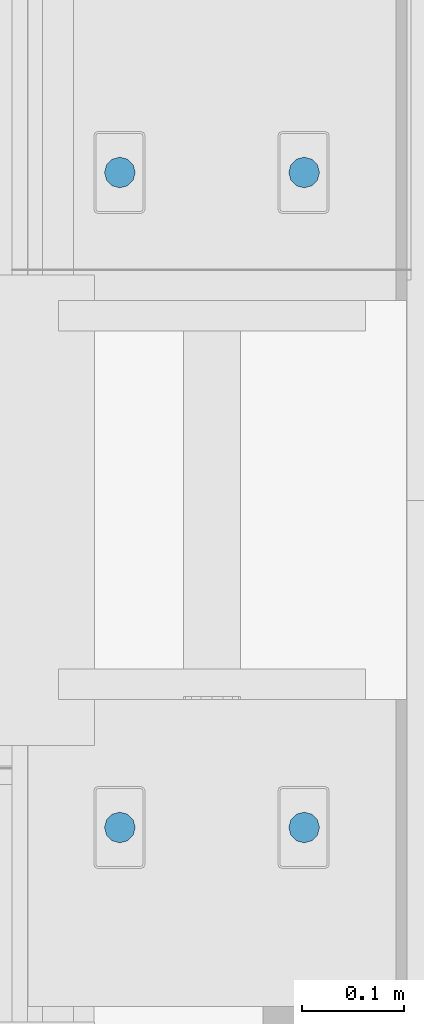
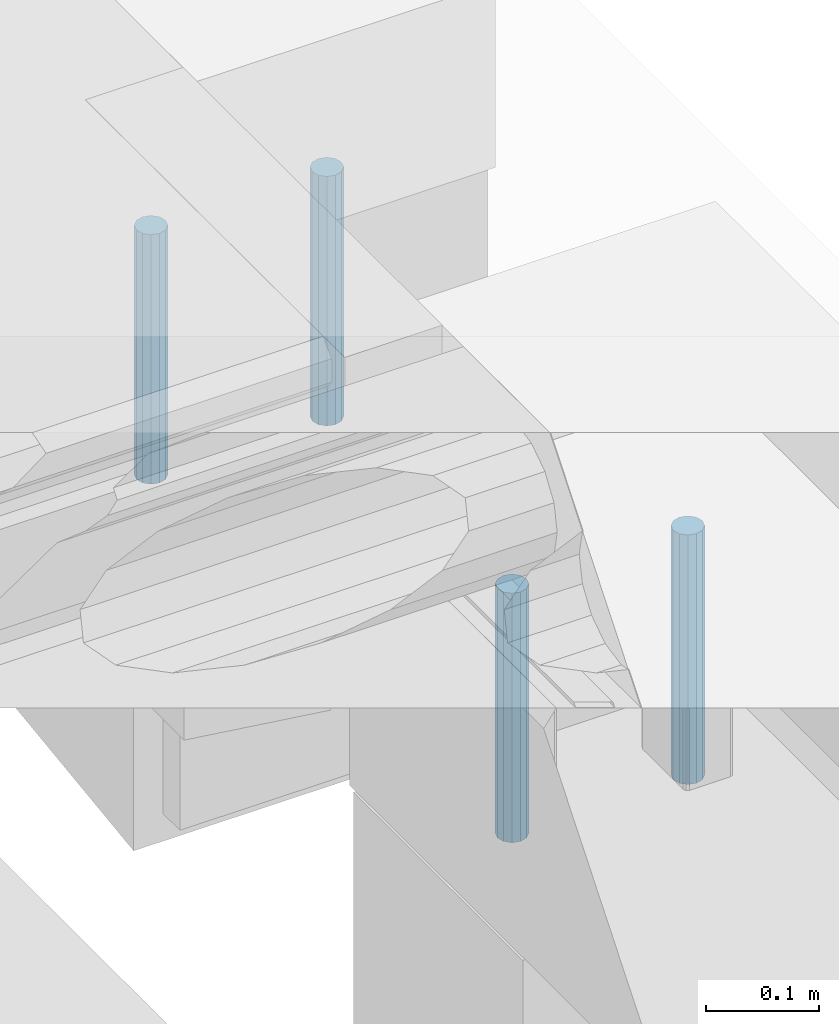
# One storey, part 193 of 230: 4 beams.
"""IFC4X3_ADD2 building model written with IfcOpenShell, lengths in millimetres."""

from ifc_helpers import new_model, si_unit, direction, origin_with_axes, place, context, subcontext, project, spatial, polygons, element, save


model = new_model("IFC4X3_ADD2")

# Units and contexts
model_context = context("Model", 3, precision=1e-05, world=origin_with_axes(), true_north=direction((0.0, 1.0)))
body_context = subcontext(model_context, "Body", "Model", "MODEL_VIEW")
ifc_project = project(units=[si_unit("LENGTHUNIT", "METRE", prefix="MILLI"), si_unit("AREAUNIT", "SQUARE_METRE"), si_unit("VOLUMEUNIT", "CUBIC_METRE"), si_unit("PLANEANGLEUNIT", "RADIAN"), si_unit("TIMEUNIT", "SECOND"), si_unit("MASSUNIT", "GRAM")], contexts=[model_context])

# Site, building, storey
site_placement = place(None, origin_with_axes())
site = spatial("IfcSite", under=ifc_project, at=site_placement, Name="Site", CompositionType="ELEMENT")
building_placement = place(site_placement, origin_with_axes())
building = spatial("IfcBuilding", under=site, at=building_placement, Name="IFC Building Story")
storey_placement = place(building_placement, origin_with_axes())
storey = spatial("IfcBuildingStorey", under=building, at=storey_placement, Name="ETAGE 00 (0)", Elevation=0.0)

# Beams
beam_1_placement = place(storey_placement, origin_with_axes())
element("IfcBeam", 1, at=beam_1_placement, inside=storey, Name="SD11", ObjectType="D30", context=body_context, shape_type="Tessellation", body=[
    polygons([(48206.1886362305, 5120.000610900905, 3960.0), (48206.1886362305, 5120.000610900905, 3690.0), (48208.19825517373, 5112.500610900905, 3690.0), (48208.19825517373, 5112.500610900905, 3960.0), (48213.6886362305, 5107.010229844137, 3690.0), (48213.6886362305, 5107.010229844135, 3960.0), (48221.18863623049, 5105.0006109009, 3690.0), (48221.18863623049, 5105.0006109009, 3960.0), (48228.68863623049, 5107.010229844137, 3690.0), (48228.68863623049, 5107.010229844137, 3960.0), (48234.17901728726, 5112.500610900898, 3690.0), (48234.17901728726, 5112.500610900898, 3960.0), (48236.1886362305, 5120.000610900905, 3690.0), (48236.1886362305, 5120.000610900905, 3960.0), (48234.17901728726, 5127.500610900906, 3690.0), (48234.17901728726, 5127.500610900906, 3960.0), (48228.68863623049, 5132.990991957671, 3690.0), (48228.68863623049, 5132.990991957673, 3960.0), (48221.18863623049, 5135.000610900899, 3690.0), (48221.18863623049, 5135.000610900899, 3960.0), (48213.6886362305, 5132.990991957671, 3690.0), (48213.6886362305, 5132.990991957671, 3960.0), (48208.19825517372, 5127.500610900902, 3690.0), (48208.19825517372, 5127.500610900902, 3960.0)], [[[1, 2, 3, 4]], [[4, 3, 5, 6]], [[6, 5, 7, 8]], [[8, 7, 9, 10]], [[10, 9, 11, 12]], [[12, 11, 13, 14]], [[14, 13, 15, 16]], [[16, 15, 17, 18]], [[18, 17, 19, 20]], [[20, 19, 21, 22]], [[22, 21, 23, 24]], [[24, 23, 2, 1]], [[4, 6, 8]], [[4, 8, 10]], [[4, 10, 12]], [[4, 12, 14]], [[4, 14, 16]], [[4, 16, 18]], [[4, 18, 20]], [[4, 20, 22]], [[4, 22, 24]], [[4, 24, 1]], [[2, 23, 21]], [[2, 21, 19]], [[2, 19, 17]], [[2, 17, 15]], [[2, 15, 13]], [[2, 13, 11]], [[2, 11, 9]], [[2, 9, 7]], [[2, 7, 5]], [[2, 5, 3]]]),
])
beam_2_placement = place(storey_placement, origin_with_axes())
element("IfcBeam", 2, at=beam_2_placement, inside=storey, Name="SD11", ObjectType="D30", context=body_context, shape_type="Tessellation", body=[
    polygons([(48386.1886362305, 5120.000610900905, 3960.0), (48386.1886362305, 5120.000610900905, 3690.0), (48388.19825517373, 5112.500610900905, 3690.0), (48388.19825517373, 5112.500610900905, 3960.0), (48393.6886362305, 5107.010229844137, 3690.0), (48393.6886362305, 5107.010229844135, 3960.0), (48401.18863623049, 5105.0006109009, 3690.0), (48401.18863623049, 5105.0006109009, 3960.0), (48408.68863623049, 5107.010229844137, 3690.0), (48408.68863623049, 5107.010229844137, 3960.0), (48414.17901728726, 5112.500610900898, 3690.0), (48414.17901728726, 5112.500610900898, 3960.0), (48416.1886362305, 5120.000610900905, 3690.0), (48416.1886362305, 5120.000610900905, 3960.0), (48414.17901728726, 5127.500610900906, 3690.0), (48414.17901728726, 5127.500610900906, 3960.0), (48408.68863623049, 5132.990991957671, 3690.0), (48408.68863623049, 5132.990991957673, 3960.0), (48401.18863623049, 5135.000610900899, 3690.0), (48401.18863623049, 5135.000610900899, 3960.0), (48393.6886362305, 5132.990991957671, 3690.0), (48393.6886362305, 5132.990991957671, 3960.0), (48388.19825517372, 5127.500610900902, 3690.0), (48388.19825517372, 5127.500610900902, 3960.0)], [[[1, 2, 3, 4]], [[4, 3, 5, 6]], [[6, 5, 7, 8]], [[8, 7, 9, 10]], [[10, 9, 11, 12]], [[12, 11, 13, 14]], [[14, 13, 15, 16]], [[16, 15, 17, 18]], [[18, 17, 19, 20]], [[20, 19, 21, 22]], [[22, 21, 23, 24]], [[24, 23, 2, 1]], [[4, 6, 8]], [[4, 8, 10]], [[4, 10, 12]], [[4, 12, 14]], [[4, 14, 16]], [[4, 16, 18]], [[4, 18, 20]], [[4, 20, 22]], [[4, 22, 24]], [[4, 24, 1]], [[2, 23, 21]], [[2, 21, 19]], [[2, 19, 17]], [[2, 17, 15]], [[2, 15, 13]], [[2, 13, 11]], [[2, 11, 9]], [[2, 9, 7]], [[2, 7, 5]], [[2, 5, 3]]]),
])
beam_3_placement = place(storey_placement, origin_with_axes())
element("IfcBeam", 3, at=beam_3_placement, inside=storey, Name="SD11", ObjectType="D30", context=body_context, shape_type="Tessellation", body=[
    polygons([(48386.1886362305, 4480.000610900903, 3960.0), (48386.1886362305, 4480.000610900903, 3690.0), (48388.19825517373, 4472.500610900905, 3690.0), (48388.19825517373, 4472.500610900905, 3960.0), (48393.6886362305, 4467.010229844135, 3690.0), (48393.6886362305, 4467.010229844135, 3960.0), (48401.18863623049, 4465.0006109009, 3690.0), (48401.18863623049, 4465.0006109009, 3960.0), (48408.68863623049, 4467.010229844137, 3690.0), (48408.68863623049, 4467.010229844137, 3960.0), (48414.17901728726, 4472.500610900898, 3690.0), (48414.17901728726, 4472.500610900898, 3960.0), (48416.1886362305, 4480.000610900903, 3690.0), (48416.1886362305, 4480.000610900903, 3960.0), (48414.17901728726, 4487.500610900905, 3690.0), (48414.17901728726, 4487.500610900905, 3960.0), (48408.68863623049, 4492.99099195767, 3690.0), (48408.68863623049, 4492.990991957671, 3960.0), (48401.18863623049, 4495.0006109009, 3690.0), (48401.18863623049, 4495.0006109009, 3960.0), (48393.6886362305, 4492.990991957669, 3690.0), (48393.6886362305, 4492.990991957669, 3960.0), (48388.19825517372, 4487.500610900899, 3690.0), (48388.19825517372, 4487.500610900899, 3960.0)], [[[1, 2, 3, 4]], [[4, 3, 5, 6]], [[6, 5, 7, 8]], [[8, 7, 9, 10]], [[10, 9, 11, 12]], [[12, 11, 13, 14]], [[14, 13, 15, 16]], [[16, 15, 17, 18]], [[18, 17, 19, 20]], [[20, 19, 21, 22]], [[22, 21, 23, 24]], [[24, 23, 2, 1]], [[4, 6, 8]], [[4, 8, 10]], [[4, 10, 12]], [[4, 12, 14]], [[4, 14, 16]], [[4, 16, 18]], [[4, 18, 20]], [[4, 20, 22]], [[4, 22, 24]], [[4, 24, 1]], [[2, 23, 21]], [[2, 21, 19]], [[2, 19, 17]], [[2, 17, 15]], [[2, 15, 13]], [[2, 13, 11]], [[2, 11, 9]], [[2, 9, 7]], [[2, 7, 5]], [[2, 5, 3]]]),
])
beam_4_placement = place(storey_placement, origin_with_axes())
element("IfcBeam", 4, at=beam_4_placement, inside=storey, Name="SD11", ObjectType="D30", context=body_context, shape_type="Tessellation", body=[
    polygons([(48206.1886362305, 4480.000610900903, 3960.0), (48206.1886362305, 4480.000610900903, 3690.0), (48208.19825517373, 4472.500610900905, 3690.0), (48208.19825517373, 4472.500610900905, 3960.0), (48213.6886362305, 4467.010229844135, 3690.0), (48213.6886362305, 4467.010229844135, 3960.0), (48221.18863623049, 4465.0006109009, 3690.0), (48221.18863623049, 4465.0006109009, 3960.0), (48228.68863623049, 4467.010229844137, 3690.0), (48228.68863623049, 4467.010229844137, 3960.0), (48234.17901728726, 4472.500610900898, 3690.0), (48234.17901728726, 4472.500610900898, 3960.0), (48236.1886362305, 4480.000610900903, 3690.0), (48236.1886362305, 4480.000610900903, 3960.0), (48234.17901728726, 4487.500610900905, 3690.0), (48234.17901728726, 4487.500610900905, 3960.0), (48228.68863623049, 4492.99099195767, 3690.0), (48228.68863623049, 4492.990991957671, 3960.0), (48221.18863623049, 4495.0006109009, 3690.0), (48221.18863623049, 4495.0006109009, 3960.0), (48213.6886362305, 4492.990991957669, 3690.0), (48213.6886362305, 4492.990991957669, 3960.0), (48208.19825517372, 4487.500610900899, 3690.0), (48208.19825517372, 4487.500610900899, 3960.0)], [[[1, 2, 3, 4]], [[4, 3, 5, 6]], [[6, 5, 7, 8]], [[8, 7, 9, 10]], [[10, 9, 11, 12]], [[12, 11, 13, 14]], [[14, 13, 15, 16]], [[16, 15, 17, 18]], [[18, 17, 19, 20]], [[20, 19, 21, 22]], [[22, 21, 23, 24]], [[24, 23, 2, 1]], [[4, 6, 8]], [[4, 8, 10]], [[4, 10, 12]], [[4, 12, 14]], [[4, 14, 16]], [[4, 16, 18]], [[4, 18, 20]], [[4, 20, 22]], [[4, 22, 24]], [[4, 24, 1]], [[2, 23, 21]], [[2, 21, 19]], [[2, 19, 17]], [[2, 17, 15]], [[2, 15, 13]], [[2, 13, 11]], [[2, 11, 9]], [[2, 9, 7]], [[2, 7, 5]], [[2, 5, 3]]]),
])

save(model, "model.ifc")
